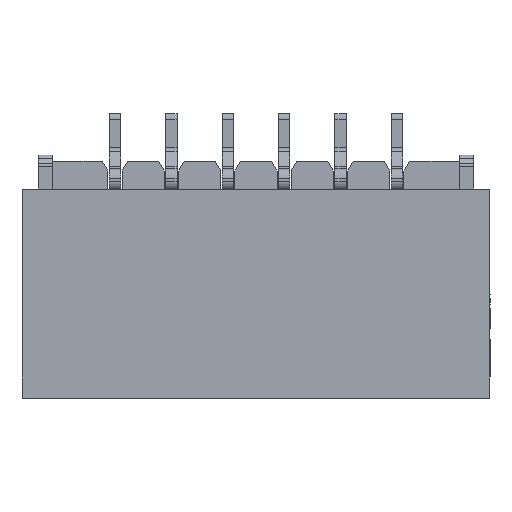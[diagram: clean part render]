
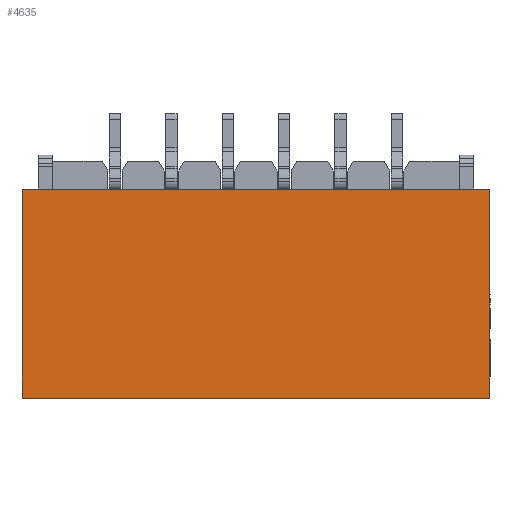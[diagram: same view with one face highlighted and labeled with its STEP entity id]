
A CAD part, top view. The second image highlights one B-rep face of the part: STEP entity #4635.
In plain terms, the highlighted planar face has unit normal (0, 0, 1).
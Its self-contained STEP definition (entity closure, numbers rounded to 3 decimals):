
#294 = ORIENTED_EDGE ( 'NONE', *, *, #19097, .F. ) ;
#390 = EDGE_CURVE ( 'NONE', #14711, #9548, #5626, .T. ) ;
#1396 = CARTESIAN_POINT ( 'NONE',  ( -4.15, -2.525, 3.38 ) ) ;
#1583 = VERTEX_POINT ( 'NONE', #6785 ) ;
#1901 = LINE ( 'NONE', #26005, #19824 ) ;
#4635 = ADVANCED_FACE ( 'NONE', ( #4879 ), #13685, .F. ) ;
#4730 = CARTESIAN_POINT ( 'NONE',  ( -4.15, -2.525, 3.38 ) ) ;
#4879 = FACE_OUTER_BOUND ( 'NONE', #5097, .T. ) ;
#5053 = EDGE_CURVE ( 'NONE', #14711, #1583, #1901, .T. ) ;
#5097 = EDGE_LOOP ( 'NONE', ( #21881, #294, #7593, #15924 ) ) ;
#5626 = LINE ( 'NONE', #10386, #15029 ) ;
#6474 = LINE ( 'NONE', #17465, #8136 ) ;
#6574 = LINE ( 'NONE', #4730, #21846 ) ;
#6785 = CARTESIAN_POINT ( 'NONE',  ( 4.15, 1.175, 3.38 ) ) ;
#7568 = DIRECTION ( 'NONE',  ( 0., 1., 0. ) ) ;
#7593 = ORIENTED_EDGE ( 'NONE', *, *, #24922, .F. ) ;
#8136 = VECTOR ( 'NONE', #22214, 1000. ) ;
#8341 = CARTESIAN_POINT ( 'NONE',  ( -4.15, 1.175, 3.38 ) ) ;
#8885 = DIRECTION ( 'NONE',  ( 0., 1., 0. ) ) ;
#9548 = VERTEX_POINT ( 'NONE', #1396 ) ;
#10386 = CARTESIAN_POINT ( 'NONE',  ( -4.15, -2.525, 3.38 ) ) ;
#12751 = DIRECTION ( 'NONE',  ( 0., 1., 0. ) ) ;
#13685 = PLANE ( 'NONE',  #13828 ) ;
#13828 = AXIS2_PLACEMENT_3D ( 'NONE', #27602, #14373, #7568 ) ;
#14192 = VERTEX_POINT ( 'NONE', #8341 ) ;
#14373 = DIRECTION ( 'NONE',  ( 0., 0., -1. ) ) ;
#14711 = VERTEX_POINT ( 'NONE', #28140 ) ;
#15029 = VECTOR ( 'NONE', #16859, 1000. ) ;
#15924 = ORIENTED_EDGE ( 'NONE', *, *, #390, .F. ) ;
#16859 = DIRECTION ( 'NONE',  ( -1., 0., 0. ) ) ;
#17465 = CARTESIAN_POINT ( 'NONE',  ( 0.375, 1.175, 3.38 ) ) ;
#19097 = EDGE_CURVE ( 'NONE', #14192, #1583, #6474, .T. ) ;
#19824 = VECTOR ( 'NONE', #12751, 1000. ) ;
#21846 = VECTOR ( 'NONE', #8885, 1000. ) ;
#21881 = ORIENTED_EDGE ( 'NONE', *, *, #5053, .T. ) ;
#22214 = DIRECTION ( 'NONE',  ( 1., 0., 0. ) ) ;
#24922 = EDGE_CURVE ( 'NONE', #9548, #14192, #6574, .T. ) ;
#26005 = CARTESIAN_POINT ( 'NONE',  ( 4.15, -2.525, 3.38 ) ) ;
#27602 = CARTESIAN_POINT ( 'NONE',  ( -4.15, -2.525, 3.38 ) ) ;
#28140 = CARTESIAN_POINT ( 'NONE',  ( 4.15, -2.525, 3.38 ) ) ;
